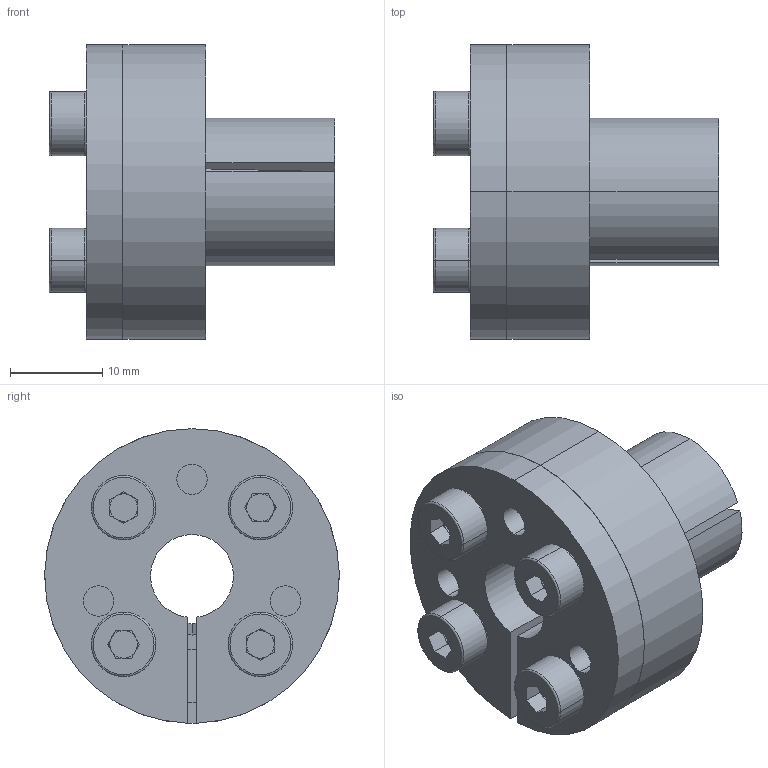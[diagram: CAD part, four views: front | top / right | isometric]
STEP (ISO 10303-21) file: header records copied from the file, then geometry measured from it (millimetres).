
FILE_DESCRIPTION (( 'STEP AP203' ), '1' );
FILE_NAME ('T-09-16.STEP', '2017-10-13T08:14:22', ( 'MYCOM' ), ( '' ), 'SwSTEP 2.0', 'SolidWorks 2015', '' );
FILE_SCHEMA (( 'CONFIG_CONTROL_DESIGN' ));
Length unit declared in the file: millimetre
Products named in the file (1): T-09-16
Bounding box: 31 x 32 x 32 mm (x, y, z)
Surface area: 8988.9 mm2 (no closed solid volume)
Topology: 0 solids, 11 shells, 131 faces, 343 edges, 220 vertices
Faces by surface type: plane 63, cylinder 47, torus 16, cone 5
Entity records: 4143 total; most frequent: DIRECTION 777, CARTESIAN_POINT 713, ORIENTED_EDGE 613, EDGE_CURVE 343, AXIS2_PLACEMENT_3D 306, VERTEX_POINT 220, CIRCLE 174, VECTOR 165
